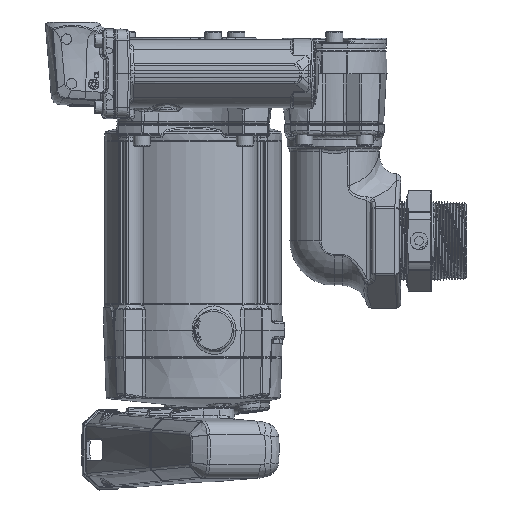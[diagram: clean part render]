
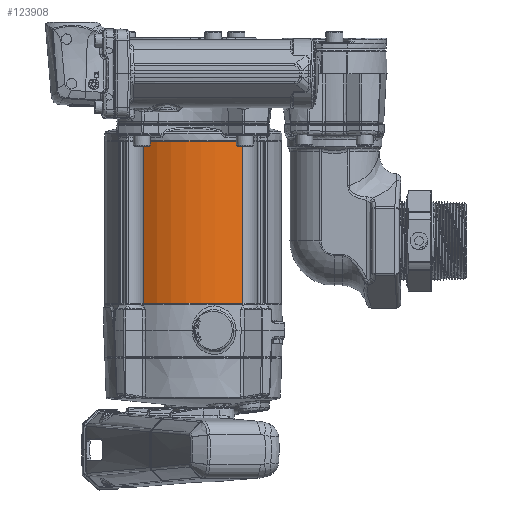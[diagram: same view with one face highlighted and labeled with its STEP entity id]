
A CAD part, left-side view. The second image highlights one B-rep face of the part: STEP entity #123908.
In plain terms, the highlighted cylindrical face has radius 67.691 mm (diameter 135.382 mm), a partial arc.
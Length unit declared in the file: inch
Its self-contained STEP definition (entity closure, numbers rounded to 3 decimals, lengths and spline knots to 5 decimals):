
#18170=FACE_OUTER_BOUND('',#25851,.T.);
#25851=EDGE_LOOP('',(#101518,#101519,#101520,#101521));
#38247=CIRCLE('',#133344,2.665);
#38347=CIRCLE('',#133454,2.665);
#44932=LINE('',#330989,#50326);
#44933=LINE('',#330991,#50327);
#50326=VECTOR('',#154452,0.3937);
#50327=VECTOR('',#154455,0.3937);
#58878=VERTEX_POINT('',#330406);
#58879=VERTEX_POINT('',#330408);
#58988=VERTEX_POINT('',#330843);
#58989=VERTEX_POINT('',#330845);
#73543=EDGE_CURVE('',#58879,#58878,#38247,.T.);
#73653=EDGE_CURVE('',#58989,#58988,#38347,.T.);
#73683=EDGE_CURVE('',#58879,#58988,#44932,.T.);
#73684=EDGE_CURVE('',#58878,#58989,#44933,.T.);
#101518=ORIENTED_EDGE('',*,*,#73543,.T.);
#101519=ORIENTED_EDGE('',*,*,#73684,.T.);
#101520=ORIENTED_EDGE('',*,*,#73653,.T.);
#101521=ORIENTED_EDGE('',*,*,#73683,.F.);
#119181=CYLINDRICAL_SURFACE('',#133481,2.665);
#123908=ADVANCED_FACE('',(#18170),#119181,.T.);
#133344=AXIS2_PLACEMENT_3D('',#330409,#154175,#154176);
#133454=AXIS2_PLACEMENT_3D('',#330846,#154395,#154396);
#133481=AXIS2_PLACEMENT_3D('',#330990,#154453,#154454);
#154175=DIRECTION('center_axis',(0.,0.,
-1.));
#154176=DIRECTION('ref_axis',(0.,1.,0.));
#154395=DIRECTION('center_axis',(0.,0.,
1.));
#154396=DIRECTION('ref_axis',(0.,1.,0.));
#154452=DIRECTION('',(0.,0.,-1.));
#154453=DIRECTION('center_axis',(0.,0.,
-1.));
#154454=DIRECTION('ref_axis',(0.,1.,0.));
#154455=DIRECTION('',(0.,0.,-1.));
#330406=CARTESIAN_POINT('',(-2.21431,1.48293,-2.0285));
#330408=CARTESIAN_POINT('',(-2.21431,-1.48293,-2.0285));
#330409=CARTESIAN_POINT('Origin',(0.,0.,
-2.0285));
#330843=CARTESIAN_POINT('',(-2.21431,-1.48293,-6.9035));
#330845=CARTESIAN_POINT('',(-2.21431,1.48293,-6.9035));
#330846=CARTESIAN_POINT('Origin',(0.,0.,
-6.9035));
#330989=CARTESIAN_POINT('',(-2.21431,-1.48293,-2.0285));
#330990=CARTESIAN_POINT('Origin',(0.,0.,
-2.0285));
#330991=CARTESIAN_POINT('',(-2.21431,1.48293,-2.0285));
